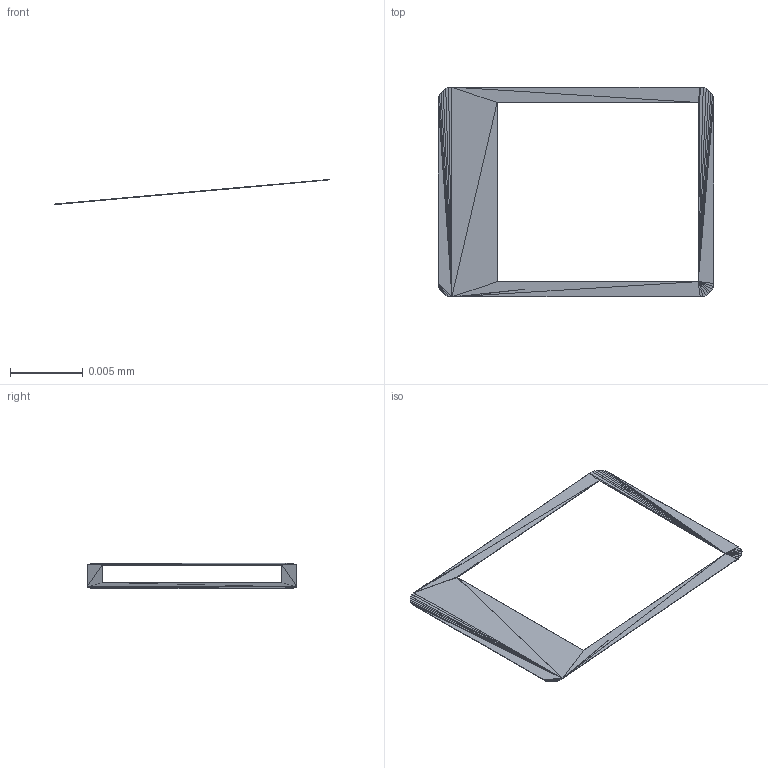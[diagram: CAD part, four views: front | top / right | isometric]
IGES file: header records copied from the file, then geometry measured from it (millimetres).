
Global section: file name: D:\work work Work\JO UNILAMP\Unilamp 2008-2009 up\BUZZ\BUZZ 2\buzz 2.IGS; native system:  3D Studio VIZ R3.0 ; preprocessor:  3D Studio VIZ Iges Exporter R3.0 ; author: No Author specified; organization: No Organization specified; units: inch
Bounding box: 0.02 x 0.01 x 0 mm (x, y, z)
Surface area: 0 mm2 (no closed solid volume)
Topology: 0 solids, 0 shells, 144 faces, 576 edges, 432 vertices
Faces by surface type: bspline 144
